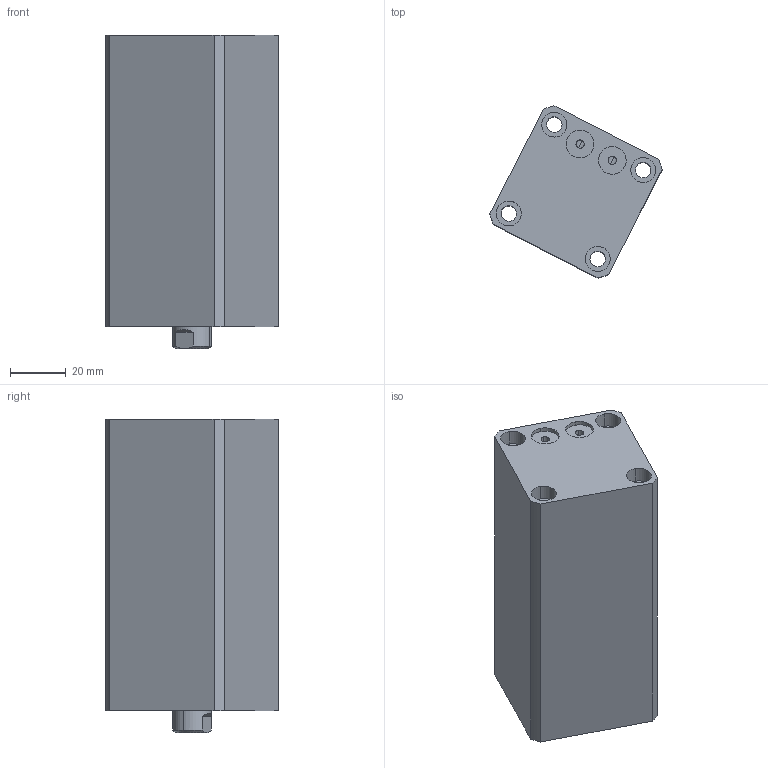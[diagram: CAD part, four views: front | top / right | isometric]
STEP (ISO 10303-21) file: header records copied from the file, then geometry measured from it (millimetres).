
FILE_DESCRIPTION (( 'STEP AP214' ), '1' );
FILE_NAME ('chtb-sdmb25x60n_asm.STEP', '2018-05-24T01:39:08', ( 'Windows' ), ( 'Microsoft' ), 'SwSTEP 2.0', 'SolidWorks 2015', '' );
FILE_SCHEMA (( 'AUTOMOTIVE_DESIGN' ));
Length unit declared in the file: millimetre
Products named in the file (4): CHTB-SDMB25X60NHSG; CHTB-SDMB25X60NBT; CHTB-25QG; chtb-sdmb25x60n_asm
Assembly tree (3 placements, depth 2):
  chtb-sdmb25x60n_asm
    CHTB-25QG
    CHTB-SDMB25X60NBT
    CHTB-SDMB25X60NHSG
Bounding box: 62 x 62 x 113 mm (x, y, z)
Volume: 205562.6 mm3; surface area: 53069.8 mm2
Topology: 3 solids, 3 shells, 142 faces, 379 edges, 257 vertices
Faces by surface type: cylinder 89, plane 34, bspline 10, cone 9
Entity records: 8024 total; most frequent: CARTESIAN_POINT 4397, ORIENTED_EDGE 746, DIRECTION 661, EDGE_CURVE 373, AXIS2_PLACEMENT_3D 272, VERTEX_POINT 257, EDGE_LOOP 180, ADVANCED_FACE 142
